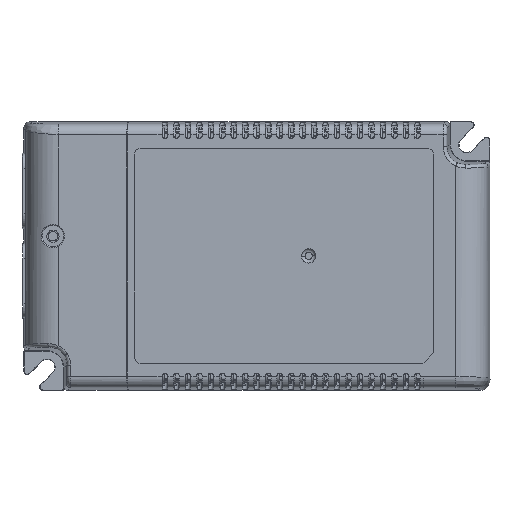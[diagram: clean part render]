
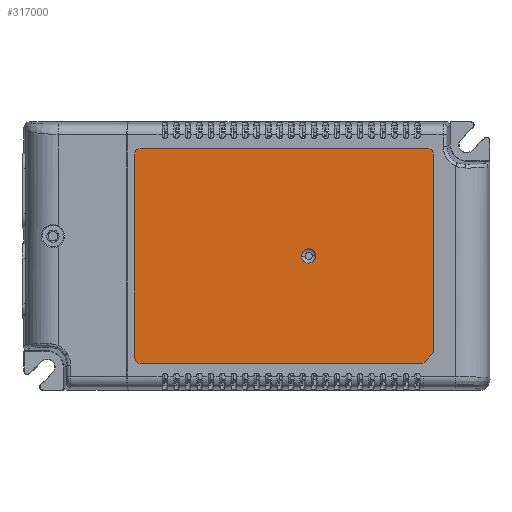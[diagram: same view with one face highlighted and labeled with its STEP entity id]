
A CAD part, top view. The second image highlights one B-rep face of the part: STEP entity #317000.
In plain terms, the highlighted planar face has unit normal (0, 0, 1).
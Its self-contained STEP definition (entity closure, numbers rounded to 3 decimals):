
#228030=CARTESIAN_POINT('',(76.333,31.097,
24.8));
#228040=VERTEX_POINT('',#228030);
#228210=CARTESIAN_POINT('',(72.372,30.538,24.8));
#228220=VERTEX_POINT('',#228210);
#228250=CARTESIAN_POINT('',(74.352,30.818,
24.8));
#228260=DIRECTION('',(0.,0.,-1.));
#228270=DIRECTION('',(-0.99,-0.14,
0.));
#228280=AXIS2_PLACEMENT_3D('',#228250,#228260,#228270);
#228290=CIRCLE('',#228280,2.);
#228300=EDGE_CURVE('',#228220,#228040,#228290,.T.);
#282100=CARTESIAN_POINT('',(107.222,60.818,24.8));
#282110=DIRECTION('',(-1.,0.,0.));
#282120=VECTOR('',#282110,1.);
#282130=LINE('',#282100,#282120);
#282140=CARTESIAN_POINT('',(107.222,60.818,24.8));
#282150=VERTEX_POINT('',#282140);
#282160=CARTESIAN_POINT('',(27.722,60.818,24.8));
#282170=VERTEX_POINT('',#282160);
#282180=EDGE_CURVE('',#282150,#282170,#282130,.T.);
#310650=CARTESIAN_POINT('',(106.222,0.818,24.8));
#310660=DIRECTION('',(0.707,0.707,0.));
#310670=VECTOR('',#310660,1.);
#310680=LINE('',#310650,#310670);
#310690=CARTESIAN_POINT('',(106.222,0.818,24.8));
#310700=VERTEX_POINT('',#310690);
#310710=CARTESIAN_POINT('',(109.222,3.818,24.8));
#310720=VERTEX_POINT('',#310710);
#310730=EDGE_CURVE('',#310700,#310720,#310680,.T.);
#316340=CARTESIAN_POINT('',(86.039,39.161,24.8));
#316350=DIRECTION('',(0.,0.,1.));
#316360=DIRECTION('',(1.,0.,0.));
#316370=AXIS2_PLACEMENT_3D('',#316340,#316350,#316360);
#316380=PLANE('',#316370);
#316390=CARTESIAN_POINT('',(107.222,58.818,24.8));
#316400=DIRECTION('',(0.,0.,1.));
#316410=DIRECTION('',(1.,0.,0.));
#316420=AXIS2_PLACEMENT_3D('',#316390,#316400,#316410);
#316430=CIRCLE('',#316420,2.);
#316440=CARTESIAN_POINT('',(109.222,58.818,24.8));
#316450=VERTEX_POINT('',#316440);
#316460=EDGE_CURVE('',#316450,#282150,#316430,.T.);
#316470=ORIENTED_EDGE('',*,*,#316460,.T.);
#316480=CARTESIAN_POINT('',(109.222,3.818,24.8));
#316490=DIRECTION('',(0.,1.,0.));
#316500=VECTOR('',#316490,1.);
#316510=LINE('',#316480,#316500);
#316520=EDGE_CURVE('',#310720,#316450,#316510,.T.);
#316530=ORIENTED_EDGE('',*,*,#316520,.T.);
#316540=ORIENTED_EDGE('',*,*,#310730,.T.);
#316550=CARTESIAN_POINT('',(27.722,0.818,24.8));
#316560=DIRECTION('',(1.,0.,0.));
#316570=VECTOR('',#316560,1.);
#316580=LINE('',#316550,#316570);
#316590=CARTESIAN_POINT('',(27.722,0.818,24.8));
#316600=VERTEX_POINT('',#316590);
#316610=EDGE_CURVE('',#316600,#310700,#316580,.T.);
#316620=ORIENTED_EDGE('',*,*,#316610,.T.);
#316630=CARTESIAN_POINT('',(27.722,2.818,24.8));
#316640=DIRECTION('',(0.,0.,1.));
#316650=DIRECTION('',(-1.,0.,0.));
#316660=AXIS2_PLACEMENT_3D('',#316630,#316640,#316650);
#316670=CIRCLE('',#316660,2.);
#316680=CARTESIAN_POINT('',(25.722,2.818,24.8));
#316690=VERTEX_POINT('',#316680);
#316700=EDGE_CURVE('',#316690,#316600,#316670,.T.);
#316710=ORIENTED_EDGE('',*,*,#316700,.T.);
#316720=CARTESIAN_POINT('',(25.722,58.818,24.8));
#316730=DIRECTION('',(0.,-1.,0.));
#316740=VECTOR('',#316730,1.);
#316750=LINE('',#316720,#316740);
#316760=CARTESIAN_POINT('',(25.722,58.818,24.8));
#316770=VERTEX_POINT('',#316760);
#316780=EDGE_CURVE('',#316770,#316690,#316750,.T.);
#316790=ORIENTED_EDGE('',*,*,#316780,.T.);
#316800=CARTESIAN_POINT('',(27.722,58.818,24.8));
#316810=DIRECTION('',(0.,-0.,1.));
#316820=DIRECTION('',(0.,1.,0.));
#316830=AXIS2_PLACEMENT_3D('',#316800,#316810,#316820);
#316840=CIRCLE('',#316830,2.);
#316850=EDGE_CURVE('',#282170,#316770,#316840,.T.);
#316860=ORIENTED_EDGE('',*,*,#316850,.T.);
#316870=ORIENTED_EDGE('',*,*,#282180,.T.);
#316880=EDGE_LOOP('',(#316870,#316860,#316790,#316710,#316620,#316540,
#316530,#316470));
#316890=FACE_OUTER_BOUND('',#316880,.T.);
#316900=CARTESIAN_POINT('',(74.352,30.818,
24.8));
#316910=DIRECTION('',(0.,0.,-1.));
#316920=DIRECTION('',(0.99,0.14,
0.));
#316930=AXIS2_PLACEMENT_3D('',#316900,#316910,#316920);
#316940=CIRCLE('',#316930,2.);
#316950=EDGE_CURVE('',#228040,#228220,#316940,.T.);
#316960=ORIENTED_EDGE('',*,*,#316950,.T.);
#316970=ORIENTED_EDGE('',*,*,#228300,.T.);
#316980=EDGE_LOOP('',(#316970,#316960));
#316990=FACE_BOUND('',#316980,.T.);
#317000=ADVANCED_FACE('',(#316890,#316990),#316380,.T.);
